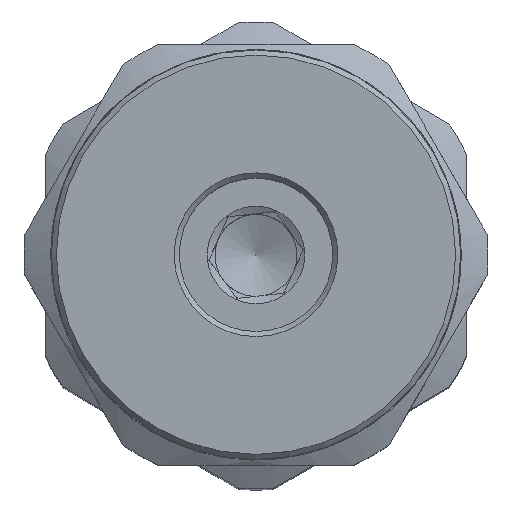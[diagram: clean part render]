
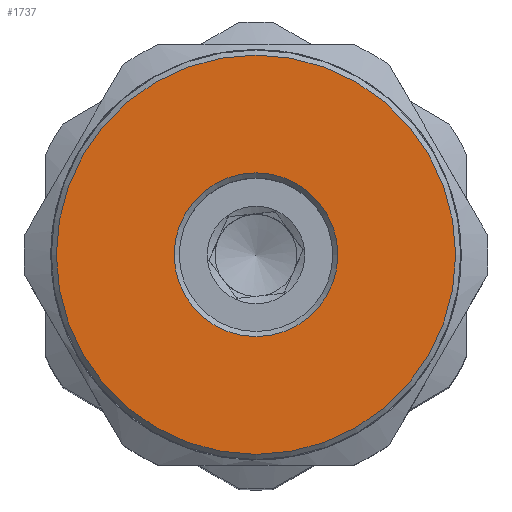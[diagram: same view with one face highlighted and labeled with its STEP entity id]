
A CAD part, top view. The second image highlights one B-rep face of the part: STEP entity #1737.
In plain terms, the highlighted planar face has unit normal (0, 0, 1).
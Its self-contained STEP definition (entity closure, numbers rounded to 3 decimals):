
#150=CIRCLE('',#2811,19.431);
#151=CIRCLE('',#2813,7.967);
#310=PLANE('',#2812);
#472=ORIENTED_EDGE('',*,*,#840,.T.);
#473=ORIENTED_EDGE('',*,*,#841,.T.);
#840=EDGE_CURVE('',#1039,#1039,#150,.T.);
#841=EDGE_CURVE('',#1040,#1040,#151,.F.);
#1039=VERTEX_POINT('',#8538);
#1040=VERTEX_POINT('',#8541);
#1279=EDGE_LOOP('',(#472));
#1280=EDGE_LOOP('',(#473));
#1513=FACE_BOUND('',#1279,.T.);
#1514=FACE_BOUND('',#1280,.T.);
#1737=ADVANCED_FACE('',(#1513,#1514),#310,.T.);
#2811=AXIS2_PLACEMENT_3D('',#8537,#3136,#3137);
#2812=AXIS2_PLACEMENT_3D('',#8539,#3138,#3139);
#2813=AXIS2_PLACEMENT_3D('',#8540,#3140,#3141);
#3136=DIRECTION('',(0.,0.,1.));
#3137=DIRECTION('',(0.,-1.,0.));
#3138=DIRECTION('',(0.,0.,1.));
#3139=DIRECTION('',(0.,-1.,0.));
#3140=DIRECTION('',(0.,0.,1.));
#3141=DIRECTION('',(0.,-1.,0.));
#8537=CARTESIAN_POINT('',(0.,0.,105.897));
#8538=CARTESIAN_POINT('',(0.,-19.431,105.897));
#8539=CARTESIAN_POINT('',(0.,0.,105.897));
#8540=CARTESIAN_POINT('',(0.,0.,105.897));
#8541=CARTESIAN_POINT('',(0.,-7.967,105.897));
